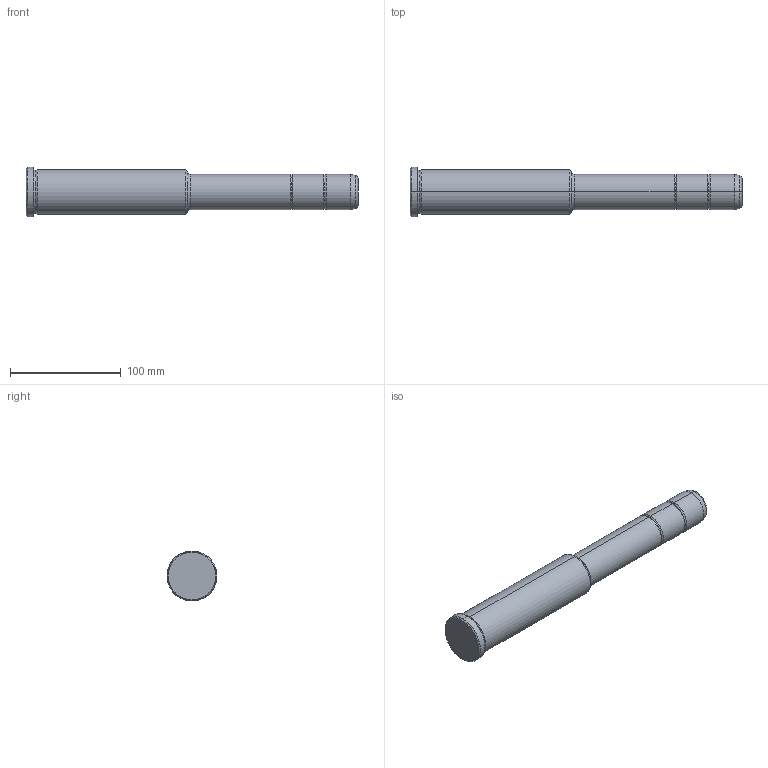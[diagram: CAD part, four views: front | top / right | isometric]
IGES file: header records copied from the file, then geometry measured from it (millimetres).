
Start section: START RECORD GO HERE.
Global section: file name: 351-32X146X300.igs; native system: DASSAULT SYSTEMES CATIA V5 R20 - www.3ds.com; preprocessor: CATIA Version 5 Release 20 ; author: Utente; organization: NB04-ASUS; date: 20210915.141153; units: millimetre
Bounding box: 300 x 45 x 45 mm (x, y, z)
Surface area: 36690.2 mm2 (no closed solid volume)
Topology: 0 solids, 0 shells, 36 faces, 204 edges, 204 vertices
Faces by surface type: revolution 32, plane 4
